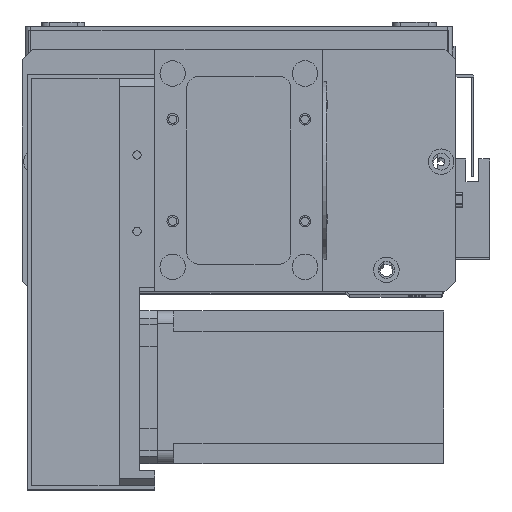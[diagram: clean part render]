
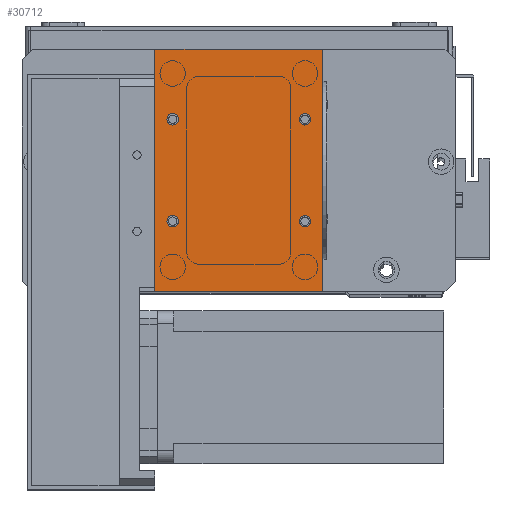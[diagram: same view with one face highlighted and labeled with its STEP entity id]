
A CAD part, top view. The second image highlights one B-rep face of the part: STEP entity #30712.
In plain terms, the highlighted planar face has unit normal (0, 0, 1).
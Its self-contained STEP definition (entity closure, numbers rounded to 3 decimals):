
#108 = CARTESIAN_POINT ( 'NONE',  ( 61.25, 27.5, 2. ) ) ;
#214 = VERTEX_POINT ( 'NONE', #28521 ) ;
#561 = VERTEX_POINT ( 'NONE', #15993 ) ;
#685 = CIRCLE ( 'NONE', #30931, 2.25 ) ;
#1117 = DIRECTION ( 'NONE',  ( 0., 0., 1. ) ) ;
#1558 = VECTOR ( 'NONE', #16706, 1000. ) ;
#1608 = AXIS2_PLACEMENT_3D ( 'NONE', #20673, #6272, #23082 ) ;
#1616 = PLANE ( 'NONE',  #27454 ) ;
#1650 = ORIENTED_EDGE ( 'NONE', *, *, #27155, .T. ) ;
#1763 = DIRECTION ( 'NONE',  ( 1., 0., 0. ) ) ;
#1995 = CIRCLE ( 'NONE', #7092, 2.25 ) ;
#2308 = LINE ( 'NONE', #16611, #1558 ) ;
#2390 = AXIS2_PLACEMENT_3D ( 'NONE', #12723, #12504, #10718 ) ;
#2699 = VERTEX_POINT ( 'NONE', #20173 ) ;
#3113 = CARTESIAN_POINT ( 'NONE',  ( 66., 95., 2. ) ) ;
#3703 = VERTEX_POINT ( 'NONE', #7549 ) ;
#3749 = EDGE_CURVE ( 'NONE', #2699, #30680, #6985, .T. ) ;
#4299 = ORIENTED_EDGE ( 'NONE', *, *, #4873, .F. ) ;
#4333 = VERTEX_POINT ( 'NONE', #13896 ) ;
#4599 = FACE_BOUND ( 'NONE', #21407, .T. ) ;
#4624 = EDGE_CURVE ( 'NONE', #16267, #561, #1995, .T. ) ;
#4652 = VECTOR ( 'NONE', #10895, 1000. ) ;
#4873 = EDGE_CURVE ( 'NONE', #30680, #2699, #27988, .T. ) ;
#5788 = ORIENTED_EDGE ( 'NONE', *, *, #6292, .F. ) ;
#5952 = DIRECTION ( 'NONE',  ( -1., 0., 0. ) ) ;
#6236 = ORIENTED_EDGE ( 'NONE', *, *, #14742, .T. ) ;
#6272 = DIRECTION ( 'NONE',  ( 0., 0., 1. ) ) ;
#6292 = EDGE_CURVE ( 'NONE', #15819, #15404, #9915, .T. ) ;
#6590 = ORIENTED_EDGE ( 'NONE', *, *, #17056, .T. ) ;
#6985 = CIRCLE ( 'NONE', #2390, 2.25 ) ;
#7092 = AXIS2_PLACEMENT_3D ( 'NONE', #10217, #26990, #12616 ) ;
#7314 = DIRECTION ( 'NONE',  ( 0., 0., 1. ) ) ;
#7549 = CARTESIAN_POINT ( 'NONE',  ( 0., 0., 2. ) ) ;
#7971 = EDGE_CURVE ( 'NONE', #561, #16267, #25966, .T. ) ;
#8631 = EDGE_CURVE ( 'NONE', #16782, #16509, #685, .T. ) ;
#9741 = EDGE_LOOP ( 'NONE', ( #16361, #6236, #6590, #1650 ) ) ;
#9915 = CIRCLE ( 'NONE', #24439, 2.25 ) ;
#10125 = VECTOR ( 'NONE', #17897, 1000. ) ;
#10217 = CARTESIAN_POINT ( 'NONE',  ( 59., 27.5, 2. ) ) ;
#10600 = CARTESIAN_POINT ( 'NONE',  ( 56.75, 67.5, 2. ) ) ;
#10718 = DIRECTION ( 'NONE',  ( 1., 0., 0. ) ) ;
#10732 = CARTESIAN_POINT ( 'NONE',  ( 59., 67.5, 2. ) ) ;
#10895 = DIRECTION ( 'NONE',  ( 0., -1., 0. ) ) ;
#11369 = CARTESIAN_POINT ( 'NONE',  ( 0., 0., 2. ) ) ;
#12504 = DIRECTION ( 'NONE',  ( 0., 0., 1. ) ) ;
#12616 = DIRECTION ( 'NONE',  ( 1., 0., 0. ) ) ;
#12723 = CARTESIAN_POINT ( 'NONE',  ( 7., 67.5, 2. ) ) ;
#12790 = CARTESIAN_POINT ( 'NONE',  ( 7., 27.5, 2. ) ) ;
#13153 = DIRECTION ( 'NONE',  ( 1., 0., 0. ) ) ;
#13762 = DIRECTION ( 'NONE',  ( -1., 0., 0. ) ) ;
#13896 = CARTESIAN_POINT ( 'NONE',  ( 0., 95., 2. ) ) ;
#14442 = CIRCLE ( 'NONE', #25169, 2.25 ) ;
#14578 = CARTESIAN_POINT ( 'NONE',  ( 9.25, 27.5, 2. ) ) ;
#14742 = EDGE_CURVE ( 'NONE', #3703, #214, #2308, .T. ) ;
#14898 = AXIS2_PLACEMENT_3D ( 'NONE', #21717, #7314, #24120 ) ;
#15175 = DIRECTION ( 'NONE',  ( 1., 0., 0. ) ) ;
#15404 = VERTEX_POINT ( 'NONE', #14578 ) ;
#15494 = CARTESIAN_POINT ( 'NONE',  ( 66., 0., 2. ) ) ;
#15533 = CARTESIAN_POINT ( 'NONE',  ( 0., 95., 2. ) ) ;
#15568 = CARTESIAN_POINT ( 'NONE',  ( 59., 27.5, 2. ) ) ;
#15819 = VERTEX_POINT ( 'NONE', #26303 ) ;
#15993 = CARTESIAN_POINT ( 'NONE',  ( 56.75, 27.5, 2. ) ) ;
#16009 = ORIENTED_EDGE ( 'NONE', *, *, #4624, .F. ) ;
#16041 = ORIENTED_EDGE ( 'NONE', *, *, #8631, .F. ) ;
#16217 = DIRECTION ( 'NONE',  ( 0., 0., 1. ) ) ;
#16267 = VERTEX_POINT ( 'NONE', #108 ) ;
#16361 = ORIENTED_EDGE ( 'NONE', *, *, #29724, .T. ) ;
#16509 = VERTEX_POINT ( 'NONE', #10600 ) ;
#16611 = CARTESIAN_POINT ( 'NONE',  ( 0., 0., 2. ) ) ;
#16706 = DIRECTION ( 'NONE',  ( 1., 0., 0. ) ) ;
#16782 = VERTEX_POINT ( 'NONE', #31039 ) ;
#17056 = EDGE_CURVE ( 'NONE', #214, #30239, #29280, .T. ) ;
#17414 = FACE_BOUND ( 'NONE', #29987, .T. ) ;
#17897 = DIRECTION ( 'NONE',  ( 0., 1., 0. ) ) ;
#17982 = DIRECTION ( 'NONE',  ( 1., 0., 0. ) ) ;
#18440 = VECTOR ( 'NONE', #5952, 1000. ) ;
#18454 = ORIENTED_EDGE ( 'NONE', *, *, #7971, .F. ) ;
#19545 = CIRCLE ( 'NONE', #14898, 2.25 ) ;
#20173 = CARTESIAN_POINT ( 'NONE',  ( 9.25, 67.5, 2. ) ) ;
#20673 = CARTESIAN_POINT ( 'NONE',  ( 7., 67.5, 2. ) ) ;
#20776 = CARTESIAN_POINT ( 'NONE',  ( 4.75, 67.5, 2. ) ) ;
#21407 = EDGE_LOOP ( 'NONE', ( #16009, #18454 ) ) ;
#21717 = CARTESIAN_POINT ( 'NONE',  ( 59., 67.5, 2. ) ) ;
#22892 = EDGE_LOOP ( 'NONE', ( #28773, #5788 ) ) ;
#23044 = FACE_OUTER_BOUND ( 'NONE', #9741, .T. ) ;
#23082 = DIRECTION ( 'NONE',  ( 1., 0., 0. ) ) ;
#23098 = LINE ( 'NONE', #25246, #4652 ) ;
#23767 = FACE_BOUND ( 'NONE', #30234, .T. ) ;
#24120 = DIRECTION ( 'NONE',  ( 1., 0., 0. ) ) ;
#24439 = AXIS2_PLACEMENT_3D ( 'NONE', #30606, #16217, #1763 ) ;
#24598 = EDGE_CURVE ( 'NONE', #15404, #15819, #14442, .T. ) ;
#24813 = LINE ( 'NONE', #15533, #18440 ) ;
#25169 = AXIS2_PLACEMENT_3D ( 'NONE', #12790, #29589, #15175 ) ;
#25246 = CARTESIAN_POINT ( 'NONE',  ( 0., 0., 2. ) ) ;
#25966 = CIRCLE ( 'NONE', #27306, 2.25 ) ;
#26303 = CARTESIAN_POINT ( 'NONE',  ( 4.75, 27.5, 2. ) ) ;
#26864 = EDGE_CURVE ( 'NONE', #16509, #16782, #19545, .T. ) ;
#26990 = DIRECTION ( 'NONE',  ( 0., 0., 1. ) ) ;
#27155 = EDGE_CURVE ( 'NONE', #30239, #4333, #24813, .T. ) ;
#27306 = AXIS2_PLACEMENT_3D ( 'NONE', #15568, #1117, #17982 ) ;
#27454 = AXIS2_PLACEMENT_3D ( 'NONE', #11369, #28163, #13762 ) ;
#27527 = DIRECTION ( 'NONE',  ( 0., 0., 1. ) ) ;
#27988 = CIRCLE ( 'NONE', #1608, 2.25 ) ;
#28163 = DIRECTION ( 'NONE',  ( 0., 0., -1. ) ) ;
#28420 = ORIENTED_EDGE ( 'NONE', *, *, #26864, .F. ) ;
#28452 = ORIENTED_EDGE ( 'NONE', *, *, #3749, .F. ) ;
#28521 = CARTESIAN_POINT ( 'NONE',  ( 66., 0., 2. ) ) ;
#28773 = ORIENTED_EDGE ( 'NONE', *, *, #24598, .F. ) ;
#29280 = LINE ( 'NONE', #15494, #10125 ) ;
#29449 = FACE_BOUND ( 'NONE', #22892, .T. ) ;
#29589 = DIRECTION ( 'NONE',  ( 0., 0., 1. ) ) ;
#29724 = EDGE_CURVE ( 'NONE', #4333, #3703, #23098, .T. ) ;
#29987 = EDGE_LOOP ( 'NONE', ( #16041, #28420 ) ) ;
#30234 = EDGE_LOOP ( 'NONE', ( #28452, #4299 ) ) ;
#30239 = VERTEX_POINT ( 'NONE', #3113 ) ;
#30606 = CARTESIAN_POINT ( 'NONE',  ( 7., 27.5, 2. ) ) ;
#30680 = VERTEX_POINT ( 'NONE', #20776 ) ;
#30712 = ADVANCED_FACE ( 'NONE', ( #23767, #17414, #4599, #29449, #23044 ), #1616, .F. ) ;
#30931 = AXIS2_PLACEMENT_3D ( 'NONE', #10732, #27527, #13153 ) ;
#31039 = CARTESIAN_POINT ( 'NONE',  ( 61.25, 67.5, 2. ) ) ;
